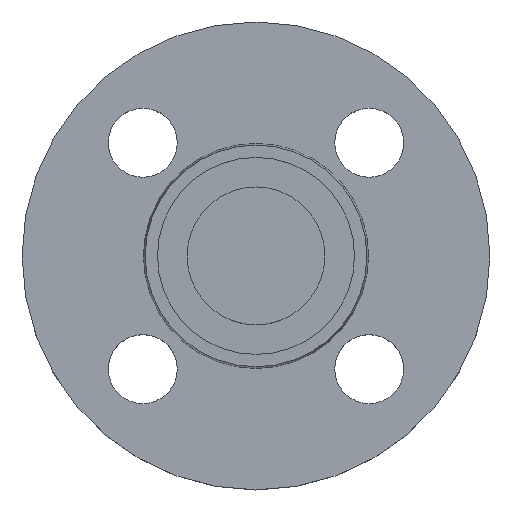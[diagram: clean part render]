
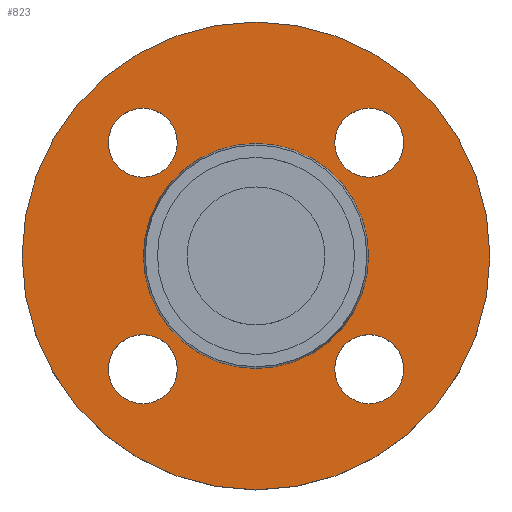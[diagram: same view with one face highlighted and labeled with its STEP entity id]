
A CAD part, top view. The second image highlights one B-rep face of the part: STEP entity #823.
In plain terms, the highlighted planar face has unit normal (0, 0, 1).
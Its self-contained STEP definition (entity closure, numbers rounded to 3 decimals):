
#2 = CARTESIAN_POINT ( 'NONE',  ( -15.981, -22.981, -2. ) ) ;
#5 = DIRECTION ( 'NONE',  ( 1., 0., 0. ) ) ;
#12 = CIRCLE ( 'NONE', #13, 7. ) ;
#13 = AXIS2_PLACEMENT_3D ( 'NONE', #25, #15, #5 ) ;
#15 = DIRECTION ( 'NONE',  ( 0., 0., -1. ) ) ;
#17 = CARTESIAN_POINT ( 'NONE',  ( 22.853, 0., -2. ) ) ;
#23 = EDGE_CURVE ( 'NONE', #609, #813, #624, .T. ) ;
#25 = CARTESIAN_POINT ( 'NONE',  ( -22.981, -22.981, -2. ) ) ;
#31 = CARTESIAN_POINT ( 'NONE',  ( 22.981, -22.981, -2. ) ) ;
#33 = CIRCLE ( 'NONE', #175, 22.853 ) ;
#55 = AXIS2_PLACEMENT_3D ( 'NONE', #86, #85, #84 ) ;
#60 = CARTESIAN_POINT ( 'NONE',  ( 0., 0., -2. ) ) ;
#62 = DIRECTION ( 'NONE',  ( 0., 0., -1. ) ) ;
#63 = DIRECTION ( 'NONE',  ( -1., 0., 0. ) ) ;
#84 = DIRECTION ( 'NONE',  ( 1., 0., 0. ) ) ;
#85 = DIRECTION ( 'NONE',  ( 0., 0., -1. ) ) ;
#86 = CARTESIAN_POINT ( 'NONE',  ( 22.981, 22.981, -2. ) ) ;
#89 = CARTESIAN_POINT ( 'NONE',  ( 15.981, 22.981, -2. ) ) ;
#105 = CARTESIAN_POINT ( 'NONE',  ( -15.981, 22.981, -2. ) ) ;
#112 = AXIS2_PLACEMENT_3D ( 'NONE', #466, #734, #416 ) ;
#122 = CARTESIAN_POINT ( 'NONE',  ( -22.853, 0., -2. ) ) ;
#143 = CARTESIAN_POINT ( 'NONE',  ( -47.5, 0., -2. ) ) ;
#175 = AXIS2_PLACEMENT_3D ( 'NONE', #301, #303, #307 ) ;
#183 = CARTESIAN_POINT ( 'NONE',  ( 15.981, -22.981, -2. ) ) ;
#186 = FACE_BOUND ( 'NONE', #796, .T. ) ;
#194 = CARTESIAN_POINT ( 'NONE',  ( 47.5, 0., -2. ) ) ;
#200 = CARTESIAN_POINT ( 'NONE',  ( -29.981, 22.981, -2. ) ) ;
#205 = PLANE ( 'NONE',  #112 ) ;
#210 = DIRECTION ( 'NONE',  ( 1., 0., 0. ) ) ;
#218 = DIRECTION ( 'NONE',  ( 0., 0., -1. ) ) ;
#223 = CIRCLE ( 'NONE', #238, 7. ) ;
#234 = CARTESIAN_POINT ( 'NONE',  ( -22.981, 22.981, -2. ) ) ;
#238 = AXIS2_PLACEMENT_3D ( 'NONE', #31, #505, #868 ) ;
#241 = AXIS2_PLACEMENT_3D ( 'NONE', #451, #463, #444 ) ;
#271 = EDGE_CURVE ( 'NONE', #575, #635, #33, .T. ) ;
#275 = FACE_BOUND ( 'NONE', #669, .T. ) ;
#282 = CIRCLE ( 'NONE', #627, 47.5 ) ;
#286 = CARTESIAN_POINT ( 'NONE',  ( 29.981, 22.981, -2. ) ) ;
#290 = CIRCLE ( 'NONE', #368, 7. ) ;
#292 = CIRCLE ( 'NONE', #55, 7. ) ;
#301 = CARTESIAN_POINT ( 'NONE',  ( 0., 0., -2. ) ) ;
#303 = DIRECTION ( 'NONE',  ( 0., 0., -1. ) ) ;
#307 = DIRECTION ( 'NONE',  ( -1., 0., 0. ) ) ;
#310 = EDGE_CURVE ( 'NONE', #803, #761, #658, .T. ) ;
#335 = EDGE_CURVE ( 'NONE', #633, #802, #878, .T. ) ;
#357 = CARTESIAN_POINT ( 'NONE',  ( -22.981, -22.981, -2. ) ) ;
#358 = DIRECTION ( 'NONE',  ( 0., 0., -1. ) ) ;
#359 = DIRECTION ( 'NONE',  ( 1., 0., 0. ) ) ;
#360 = CARTESIAN_POINT ( 'NONE',  ( 22.981, 22.981, -2. ) ) ;
#361 = DIRECTION ( 'NONE',  ( 0., 0., -1. ) ) ;
#364 = EDGE_CURVE ( 'NONE', #530, #817, #290, .T. ) ;
#365 = DIRECTION ( 'NONE',  ( 1., 0., 0. ) ) ;
#367 = AXIS2_PLACEMENT_3D ( 'NONE', #834, #836, #838 ) ;
#368 = AXIS2_PLACEMENT_3D ( 'NONE', #381, #382, #383 ) ;
#381 = CARTESIAN_POINT ( 'NONE',  ( 22.981, -22.981, -2. ) ) ;
#382 = DIRECTION ( 'NONE',  ( 0., 0., -1. ) ) ;
#383 = DIRECTION ( 'NONE',  ( 1., 0., 0. ) ) ;
#405 = CARTESIAN_POINT ( 'NONE',  ( 0., 0., -2. ) ) ;
#408 = EDGE_CURVE ( 'NONE', #635, #575, #606, .T. ) ;
#409 = DIRECTION ( 'NONE',  ( 0., 0., -1. ) ) ;
#412 = DIRECTION ( 'NONE',  ( -1., 0., 0. ) ) ;
#416 = DIRECTION ( 'NONE',  ( 1., 0., 0. ) ) ;
#444 = DIRECTION ( 'NONE',  ( -1., 0., 0. ) ) ;
#450 = AXIS2_PLACEMENT_3D ( 'NONE', #360, #361, #365 ) ;
#451 = CARTESIAN_POINT ( 'NONE',  ( 0., 0., -2. ) ) ;
#453 = EDGE_CURVE ( 'NONE', #510, #563, #482, .T. ) ;
#463 = DIRECTION ( 'NONE',  ( 0., 0., -1. ) ) ;
#466 = CARTESIAN_POINT ( 'NONE',  ( 22.853, 0., -2. ) ) ;
#482 = CIRCLE ( 'NONE', #241, 47.5 ) ;
#483 = AXIS2_PLACEMENT_3D ( 'NONE', #405, #409, #412 ) ;
#486 = EDGE_CURVE ( 'NONE', #813, #609, #584, .T. ) ;
#505 = DIRECTION ( 'NONE',  ( 0., 0., -1. ) ) ;
#510 = VERTEX_POINT ( 'NONE', #194 ) ;
#524 = EDGE_LOOP ( 'NONE', ( #648, #651 ) ) ;
#525 = EDGE_LOOP ( 'NONE', ( #657, #660 ) ) ;
#530 = VERTEX_POINT ( 'NONE', #183 ) ;
#534 = EDGE_LOOP ( 'NONE', ( #653, #654 ) ) ;
#551 = FACE_BOUND ( 'NONE', #524, .T. ) ;
#557 = EDGE_LOOP ( 'NONE', ( #637, #640 ) ) ;
#563 = VERTEX_POINT ( 'NONE', #143 ) ;
#575 = VERTEX_POINT ( 'NONE', #122 ) ;
#584 = CIRCLE ( 'NONE', #702, 7. ) ;
#606 = CIRCLE ( 'NONE', #483, 22.853 ) ;
#609 = VERTEX_POINT ( 'NONE', #105 ) ;
#624 = CIRCLE ( 'NONE', #367, 7. ) ;
#627 = AXIS2_PLACEMENT_3D ( 'NONE', #60, #62, #63 ) ;
#633 = VERTEX_POINT ( 'NONE', #89 ) ;
#635 = VERTEX_POINT ( 'NONE', #17 ) ;
#637 = ORIENTED_EDGE ( 'NONE', *, *, #890, .T. ) ;
#640 = ORIENTED_EDGE ( 'NONE', *, *, #364, .T. ) ;
#642 = ORIENTED_EDGE ( 'NONE', *, *, #737, .T. ) ;
#646 = EDGE_CURVE ( 'NONE', #802, #633, #292, .T. ) ;
#647 = ORIENTED_EDGE ( 'NONE', *, *, #310, .T. ) ;
#648 = ORIENTED_EDGE ( 'NONE', *, *, #23, .T. ) ;
#651 = ORIENTED_EDGE ( 'NONE', *, *, #486, .T. ) ;
#653 = ORIENTED_EDGE ( 'NONE', *, *, #646, .T. ) ;
#654 = ORIENTED_EDGE ( 'NONE', *, *, #335, .T. ) ;
#655 = ORIENTED_EDGE ( 'NONE', *, *, #271, .T. ) ;
#656 = ORIENTED_EDGE ( 'NONE', *, *, #408, .T. ) ;
#657 = ORIENTED_EDGE ( 'NONE', *, *, #453, .F. ) ;
#658 = CIRCLE ( 'NONE', #743, 7. ) ;
#660 = ORIENTED_EDGE ( 'NONE', *, *, #684, .F. ) ;
#669 = EDGE_LOOP ( 'NONE', ( #655, #656 ) ) ;
#684 = EDGE_CURVE ( 'NONE', #563, #510, #282, .T. ) ;
#702 = AXIS2_PLACEMENT_3D ( 'NONE', #234, #218, #210 ) ;
#734 = DIRECTION ( 'NONE',  ( 0., 0., 1. ) ) ;
#737 = EDGE_CURVE ( 'NONE', #761, #803, #12, .T. ) ;
#743 = AXIS2_PLACEMENT_3D ( 'NONE', #357, #358, #359 ) ;
#760 = CARTESIAN_POINT ( 'NONE',  ( 29.981, -22.981, -2. ) ) ;
#761 = VERTEX_POINT ( 'NONE', #2 ) ;
#764 = CARTESIAN_POINT ( 'NONE',  ( -29.981, -22.981, -2. ) ) ;
#775 = FACE_BOUND ( 'NONE', #557, .T. ) ;
#791 = FACE_OUTER_BOUND ( 'NONE', #525, .T. ) ;
#796 = EDGE_LOOP ( 'NONE', ( #642, #647 ) ) ;
#802 = VERTEX_POINT ( 'NONE', #286 ) ;
#803 = VERTEX_POINT ( 'NONE', #764 ) ;
#813 = VERTEX_POINT ( 'NONE', #200 ) ;
#817 = VERTEX_POINT ( 'NONE', #760 ) ;
#823 = ADVANCED_FACE ( 'NONE', ( #775, #186, #551, #857, #275, #791 ), #205, .T. ) ;
#834 = CARTESIAN_POINT ( 'NONE',  ( -22.981, 22.981, -2. ) ) ;
#836 = DIRECTION ( 'NONE',  ( 0., 0., -1. ) ) ;
#838 = DIRECTION ( 'NONE',  ( 1., 0., 0. ) ) ;
#857 = FACE_BOUND ( 'NONE', #534, .T. ) ;
#868 = DIRECTION ( 'NONE',  ( 1., 0., 0. ) ) ;
#878 = CIRCLE ( 'NONE', #450, 7. ) ;
#890 = EDGE_CURVE ( 'NONE', #817, #530, #223, .T. ) ;
